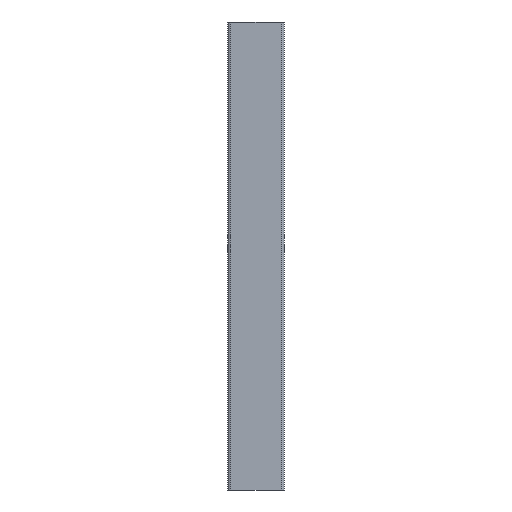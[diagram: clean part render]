
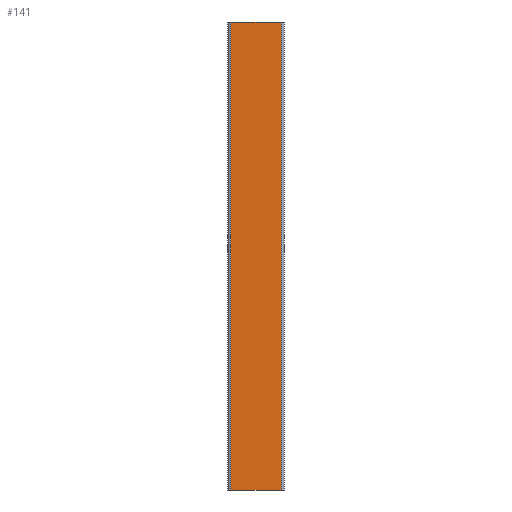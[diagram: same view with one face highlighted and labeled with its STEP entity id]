
A CAD part, left-side view. The second image highlights one B-rep face of the part: STEP entity #141.
In plain terms, the highlighted planar face has unit normal (-1, 0, 0).
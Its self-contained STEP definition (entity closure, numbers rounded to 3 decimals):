
#34 = VECTOR ( 'NONE', #343, 1000. ) ;
#43 = VECTOR ( 'NONE', #318, 1000. ) ;
#51 = EDGE_CURVE ( 'NONE', #557, #97, #172, .T. ) ;
#58 = LINE ( 'NONE', #320, #166 ) ;
#97 = VERTEX_POINT ( 'NONE', #584 ) ;
#109 = CARTESIAN_POINT ( 'NONE',  ( -15., 30., 250. ) ) ;
#112 = LINE ( 'NONE', #297, #439 ) ;
#141 = ADVANCED_FACE ( 'NONE', ( #316 ), #589, .F. ) ;
#162 = CARTESIAN_POINT ( 'NONE',  ( -15., -27., 250. ) ) ;
#166 = VECTOR ( 'NONE', #519, 1000. ) ;
#172 = LINE ( 'NONE', #219, #34 ) ;
#181 = DIRECTION ( 'NONE',  ( 1., 0., 0. ) ) ;
#219 = CARTESIAN_POINT ( 'NONE',  ( -15., 30., -250. ) ) ;
#269 = CARTESIAN_POINT ( 'NONE',  ( -15., 30., 250. ) ) ;
#282 = ORIENTED_EDGE ( 'NONE', *, *, #544, .T. ) ;
#297 = CARTESIAN_POINT ( 'NONE',  ( -15., 27., 250. ) ) ;
#302 = ORIENTED_EDGE ( 'NONE', *, *, #51, .T. ) ;
#316 = FACE_OUTER_BOUND ( 'NONE', #534, .T. ) ;
#318 = DIRECTION ( 'NONE',  ( 0., -1., 0. ) ) ;
#320 = CARTESIAN_POINT ( 'NONE',  ( -15., -27., 250. ) ) ;
#325 = ORIENTED_EDGE ( 'NONE', *, *, #445, .T. ) ;
#330 = EDGE_CURVE ( 'NONE', #332, #422, #425, .T. ) ;
#332 = VERTEX_POINT ( 'NONE', #502 ) ;
#343 = DIRECTION ( 'NONE',  ( 0., -1., 0. ) ) ;
#375 = AXIS2_PLACEMENT_3D ( 'NONE', #269, #181, #496 ) ;
#409 = ORIENTED_EDGE ( 'NONE', *, *, #330, .F. ) ;
#422 = VERTEX_POINT ( 'NONE', #162 ) ;
#425 = LINE ( 'NONE', #109, #43 ) ;
#439 = VECTOR ( 'NONE', #521, 1000. ) ;
#445 = EDGE_CURVE ( 'NONE', #332, #557, #112, .T. ) ;
#496 = DIRECTION ( 'NONE',  ( 0., 1., 0. ) ) ;
#502 = CARTESIAN_POINT ( 'NONE',  ( -15., 27., 250. ) ) ;
#519 = DIRECTION ( 'NONE',  ( 0., 0., 1. ) ) ;
#521 = DIRECTION ( 'NONE',  ( 0., 0., -1. ) ) ;
#534 = EDGE_LOOP ( 'NONE', ( #302, #282, #409, #325 ) ) ;
#544 = EDGE_CURVE ( 'NONE', #97, #422, #58, .T. ) ;
#557 = VERTEX_POINT ( 'NONE', #600 ) ;
#584 = CARTESIAN_POINT ( 'NONE',  ( -15., -27., -250. ) ) ;
#589 = PLANE ( 'NONE',  #375 ) ;
#600 = CARTESIAN_POINT ( 'NONE',  ( -15., 27., -250. ) ) ;
